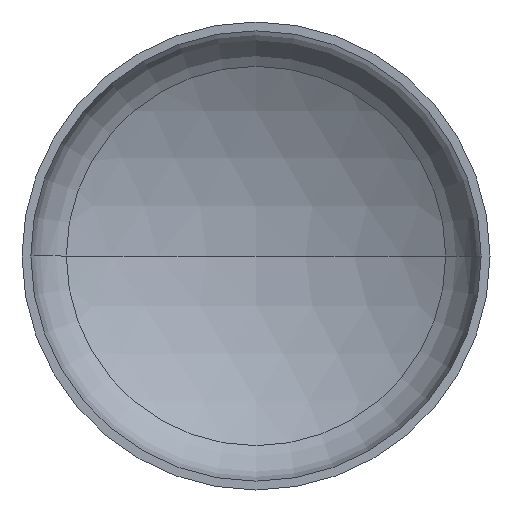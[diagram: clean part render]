
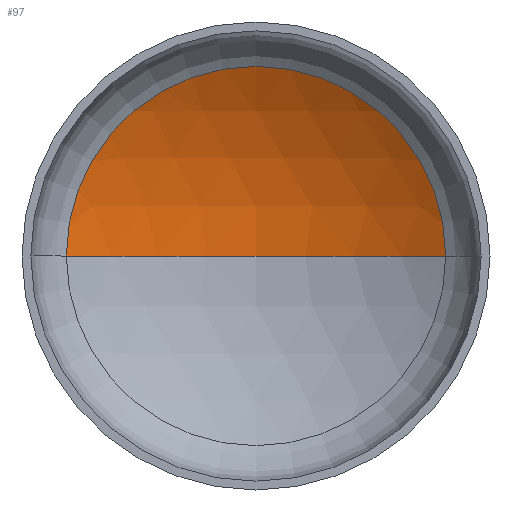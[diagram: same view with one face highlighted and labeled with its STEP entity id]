
A CAD part, front view. The second image highlights one B-rep face of the part: STEP entity #97.
In plain terms, the highlighted spherical face has radius 4400 mm.
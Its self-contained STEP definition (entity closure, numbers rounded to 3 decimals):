
#21 = VERTEX_POINT ( 'NONE', #379 ) ;
#42 = ORIENTED_EDGE ( 'NONE', *, *, #248, .T. ) ;
#52 = ORIENTED_EDGE ( 'NONE', *, *, #250, .T. ) ;
#58 = SPHERICAL_SURFACE ( 'NONE', #192, 4400. ) ;
#93 = VERTEX_POINT ( 'NONE', #208 ) ;
#97 = ADVANCED_FACE ( 'NONE', ( #313 ), #58, .F. ) ;
#113 = ORIENTED_EDGE ( 'NONE', *, *, #257, .F. ) ;
#125 = EDGE_LOOP ( 'NONE', ( #113, #52, #42 ) ) ;
#134 = AXIS2_PLACEMENT_3D ( 'NONE', #186, #249, #243 ) ;
#135 = VERTEX_POINT ( 'NONE', #334 ) ;
#136 = AXIS2_PLACEMENT_3D ( 'NONE', #147, #165, #168 ) ;
#138 = AXIS2_PLACEMENT_3D ( 'NONE', #150, #320, #343 ) ;
#142 = CIRCLE ( 'NONE', #138, 2229.086 ) ;
#147 = CARTESIAN_POINT ( 'NONE',  ( 0., -2990.032, 0. ) ) ;
#150 = CARTESIAN_POINT ( 'NONE',  ( 0., 803.538, 0. ) ) ;
#165 = DIRECTION ( 'NONE',  ( 0., 0., -1. ) ) ;
#168 = DIRECTION ( 'NONE',  ( -1., 0., 0. ) ) ;
#186 = CARTESIAN_POINT ( 'NONE',  ( 0., -2990.032, 0. ) ) ;
#192 = AXIS2_PLACEMENT_3D ( 'NONE', #199, #229, #335 ) ;
#199 = CARTESIAN_POINT ( 'NONE',  ( 0., -2990.032, 0. ) ) ;
#208 = CARTESIAN_POINT ( 'NONE',  ( 0., 1409.968, 0. ) ) ;
#229 = DIRECTION ( 'NONE',  ( 0., 0., -1. ) ) ;
#243 = DIRECTION ( 'NONE',  ( 1., 0., 0. ) ) ;
#248 = EDGE_CURVE ( 'NONE', #135, #21, #142, .T. ) ;
#249 = DIRECTION ( 'NONE',  ( 0., 0., 1. ) ) ;
#250 = EDGE_CURVE ( 'NONE', #93, #135, #346, .T. ) ;
#257 = EDGE_CURVE ( 'NONE', #93, #21, #403, .T. ) ;
#313 = FACE_OUTER_BOUND ( 'NONE', #125, .T. ) ;
#320 = DIRECTION ( 'NONE',  ( 0., -1., 0. ) ) ;
#334 = CARTESIAN_POINT ( 'NONE',  ( 2229.086, 803.538, 0. ) ) ;
#335 = DIRECTION ( 'NONE',  ( -1., 0., 0. ) ) ;
#343 = DIRECTION ( 'NONE',  ( 1., 0., 0. ) ) ;
#346 = CIRCLE ( 'NONE', #136, 4400. ) ;
#379 = CARTESIAN_POINT ( 'NONE',  ( -2229.086, 803.538, 0. ) ) ;
#403 = CIRCLE ( 'NONE', #134, 4400. ) ;
